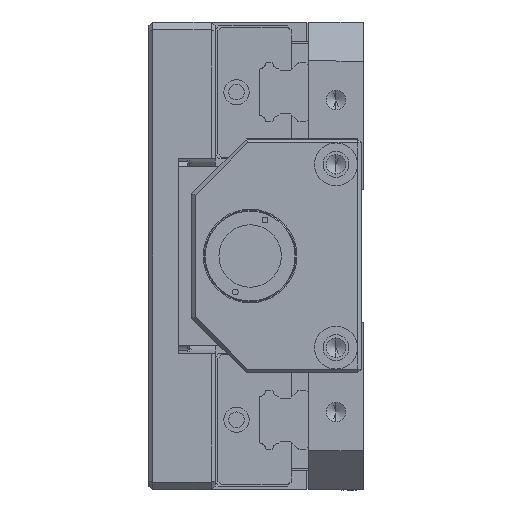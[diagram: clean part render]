
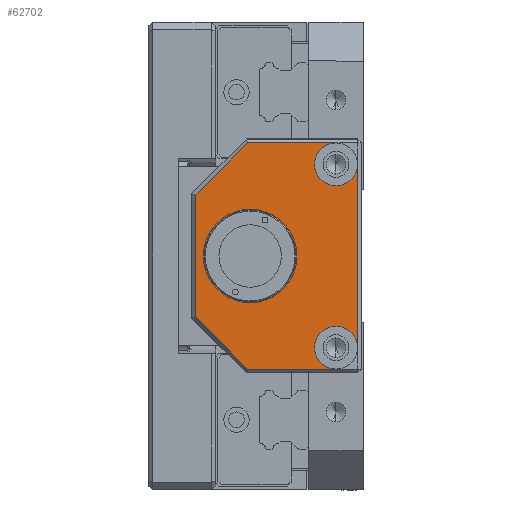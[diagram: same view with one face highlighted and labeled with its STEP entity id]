
A CAD part, left-side view. The second image highlights one B-rep face of the part: STEP entity #62702.
In plain terms, the highlighted planar face has unit normal (-1, 0, 0).
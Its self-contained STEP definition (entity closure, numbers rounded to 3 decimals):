
#1490 = EDGE_CURVE ( 'NONE', #87506, #97980, #65967, .T. ) ;
#1583 = CIRCLE ( 'NONE', #34682, 5.5 ) ;
#2907 = DIRECTION ( 'NONE',  ( 0., 0., 1. ) ) ;
#3717 = DIRECTION ( 'NONE',  ( -1., 0., 0. ) ) ;
#3780 = ORIENTED_EDGE ( 'NONE', *, *, #22506, .F. ) ;
#4013 = PLANE ( 'NONE',  #46763 ) ;
#4129 = CARTESIAN_POINT ( 'NONE',  ( -132.871, 231.651, 321.966 ) ) ;
#4383 = CARTESIAN_POINT ( 'NONE',  ( -132.871, 210.901, 350.966 ) ) ;
#5818 = CIRCLE ( 'NONE', #113718, 5.5 ) ;
#6619 = AXIS2_PLACEMENT_3D ( 'NONE', #56343, #35864, #74333 ) ;
#8052 = ORIENTED_EDGE ( 'NONE', *, *, #54332, .F. ) ;
#8355 = DIRECTION ( 'NONE',  ( -1., 0., 0. ) ) ;
#10295 = CARTESIAN_POINT ( 'NONE',  ( -132.871, 195.651, 345.466 ) ) ;
#11167 = CARTESIAN_POINT ( 'NONE',  ( -132.871, 232.028, 306.757 ) ) ;
#12035 = CIRCLE ( 'NONE', #87799, 5.5 ) ;
#12872 = VERTEX_POINT ( 'NONE', #109379 ) ;
#13408 = VERTEX_POINT ( 'NONE', #92859 ) ;
#13596 = DIRECTION ( 'NONE',  ( 1., 0., 0. ) ) ;
#15686 = VERTEX_POINT ( 'NONE', #119764 ) ;
#19221 = EDGE_CURVE ( 'NONE', #64312, #94208, #35649, .T. ) ;
#20809 = EDGE_CURVE ( 'NONE', #57362, #12872, #57364, .T. ) ;
#21421 = VECTOR ( 'NONE', #94429, 1000. ) ;
#21461 = VERTEX_POINT ( 'NONE', #34317 ) ;
#22506 = EDGE_CURVE ( 'NONE', #12872, #57362, #58812, .T. ) ;
#23671 = CARTESIAN_POINT ( 'NONE',  ( -132.871, 231.651, 306.38 ) ) ;
#29789 = ORIENTED_EDGE ( 'NONE', *, *, #85415, .F. ) ;
#33250 = CARTESIAN_POINT ( 'NONE',  ( -132.871, 229.401, 321.966 ) ) ;
#34317 = CARTESIAN_POINT ( 'NONE',  ( -132.871, 195.651, 339.966 ) ) ;
#34682 = AXIS2_PLACEMENT_3D ( 'NONE', #10295, #87519, #57468 ) ;
#35508 = VERTEX_POINT ( 'NONE', #23671 ) ;
#35649 = LINE ( 'NONE', #4383, #98551 ) ;
#35864 = DIRECTION ( 'NONE',  ( -1., 0., 0. ) ) ;
#42008 = DIRECTION ( 'NONE',  ( 0., 0., -1. ) ) ;
#46636 = CARTESIAN_POINT ( 'NONE',  ( -132.871, 210.901, 292.966 ) ) ;
#46763 = AXIS2_PLACEMENT_3D ( 'NONE', #108097, #13596, #42008 ) ;
#46768 = FACE_BOUND ( 'NONE', #81249, .T. ) ;
#46825 = LINE ( 'NONE', #55516, #21421 ) ;
#47767 = VECTOR ( 'NONE', #65077, 1000. ) ;
#50059 = ORIENTED_EDGE ( 'NONE', *, *, #19221, .F. ) ;
#51563 = DIRECTION ( 'NONE',  ( 0., -1., 0. ) ) ;
#52718 = VECTOR ( 'NONE', #60930, 1000. ) ;
#54332 = EDGE_CURVE ( 'NONE', #109929, #13408, #79175, .T. ) ;
#55516 = CARTESIAN_POINT ( 'NONE',  ( -132.871, 190.151, 321.966 ) ) ;
#56217 = VERTEX_POINT ( 'NONE', #105144 ) ;
#56343 = CARTESIAN_POINT ( 'NONE',  ( -132.871, 217.651, 321.966 ) ) ;
#56418 = CARTESIAN_POINT ( 'NONE',  ( -132.871, 195.651, 298.466 ) ) ;
#57362 = VERTEX_POINT ( 'NONE', #33250 ) ;
#57364 = CIRCLE ( 'NONE', #78244, 11.75 ) ;
#57468 = DIRECTION ( 'NONE',  ( 0., 0., 1. ) ) ;
#58742 = EDGE_CURVE ( 'NONE', #94208, #21461, #5818, .T. ) ;
#58812 = CIRCLE ( 'NONE', #6619, 11.75 ) ;
#60930 = DIRECTION ( 'NONE',  ( 0., 0., 1. ) ) ;
#61310 = AXIS2_PLACEMENT_3D ( 'NONE', #56418, #123358, #94064 ) ;
#61751 = CARTESIAN_POINT ( 'NONE',  ( -132.871, 218.236, 350.966 ) ) ;
#62702 = ADVANCED_FACE ( 'NONE', ( #46768, #87182 ), #4013, .F. ) ;
#64312 = VERTEX_POINT ( 'NONE', #61751 ) ;
#65077 = DIRECTION ( 'NONE',  ( 0., 1., 0. ) ) ;
#65967 = CIRCLE ( 'NONE', #61310, 5.5 ) ;
#66355 = DIRECTION ( 'NONE',  ( 0., 1., 0. ) ) ;
#66923 = ORIENTED_EDGE ( 'NONE', *, *, #58742, .F. ) ;
#71169 = EDGE_CURVE ( 'NONE', #97980, #109929, #12035, .T. ) ;
#71230 = ORIENTED_EDGE ( 'NONE', *, *, #71169, .F. ) ;
#72749 = CARTESIAN_POINT ( 'NONE',  ( -132.871, 190.151, 298.466 ) ) ;
#72942 = DIRECTION ( 'NONE',  ( 0., -0.707, 0.707 ) ) ;
#73184 = EDGE_CURVE ( 'NONE', #15686, #64312, #110516, .T. ) ;
#74333 = DIRECTION ( 'NONE',  ( 0., 1., 0. ) ) ;
#74722 = CARTESIAN_POINT ( 'NONE',  ( -132.871, 217.651, 321.966 ) ) ;
#75285 = ORIENTED_EDGE ( 'NONE', *, *, #1490, .F. ) ;
#75774 = EDGE_CURVE ( 'NONE', #21461, #56217, #1583, .T. ) ;
#76655 = CARTESIAN_POINT ( 'NONE',  ( -132.871, 195.651, 298.466 ) ) ;
#78244 = AXIS2_PLACEMENT_3D ( 'NONE', #74722, #8355, #66355 ) ;
#79175 = LINE ( 'NONE', #46636, #47767 ) ;
#81249 = EDGE_LOOP ( 'NONE', ( #84987, #3780 ) ) ;
#84987 = ORIENTED_EDGE ( 'NONE', *, *, #20809, .F. ) ;
#85415 = EDGE_CURVE ( 'NONE', #35508, #15686, #108104, .T. ) ;
#87182 = FACE_OUTER_BOUND ( 'NONE', #104201, .T. ) ;
#87506 = VERTEX_POINT ( 'NONE', #72749 ) ;
#87519 = DIRECTION ( 'NONE',  ( -1., 0., 0. ) ) ;
#87799 = AXIS2_PLACEMENT_3D ( 'NONE', #76655, #105562, #113990 ) ;
#89792 = CARTESIAN_POINT ( 'NONE',  ( -132.871, 195.651, 292.966 ) ) ;
#90544 = VECTOR ( 'NONE', #106481, 1000. ) ;
#92859 = CARTESIAN_POINT ( 'NONE',  ( -132.871, 218.236, 292.966 ) ) ;
#94042 = EDGE_CURVE ( 'NONE', #56217, #87506, #46825, .T. ) ;
#94064 = DIRECTION ( 'NONE',  ( 0., 0., 1. ) ) ;
#94208 = VERTEX_POINT ( 'NONE', #115317 ) ;
#94429 = DIRECTION ( 'NONE',  ( 0., 0., -1. ) ) ;
#95474 = VECTOR ( 'NONE', #72942, 1000. ) ;
#96336 = ORIENTED_EDGE ( 'NONE', *, *, #94042, .F. ) ;
#97980 = VERTEX_POINT ( 'NONE', #106651 ) ;
#98551 = VECTOR ( 'NONE', #51563, 1000. ) ;
#104201 = EDGE_LOOP ( 'NONE', ( #96336, #114389, #66923, #50059, #110559, #29789, #113421, #8052, #71230, #75285 ) ) ;
#105144 = CARTESIAN_POINT ( 'NONE',  ( -132.871, 190.151, 345.466 ) ) ;
#105562 = DIRECTION ( 'NONE',  ( -1., 0., 0. ) ) ;
#106481 = DIRECTION ( 'NONE',  ( 0., 0.707, 0.707 ) ) ;
#106651 = CARTESIAN_POINT ( 'NONE',  ( -132.871, 195.651, 303.966 ) ) ;
#107873 = EDGE_CURVE ( 'NONE', #13408, #35508, #113040, .T. ) ;
#108097 = CARTESIAN_POINT ( 'NONE',  ( -132.871, 190.151, 350.966 ) ) ;
#108104 = LINE ( 'NONE', #4129, #52718 ) ;
#109379 = CARTESIAN_POINT ( 'NONE',  ( -132.871, 205.901, 321.966 ) ) ;
#109394 = CARTESIAN_POINT ( 'NONE',  ( -132.871, 217.86, 351.343 ) ) ;
#109929 = VERTEX_POINT ( 'NONE', #89792 ) ;
#110516 = LINE ( 'NONE', #109394, #95474 ) ;
#110559 = ORIENTED_EDGE ( 'NONE', *, *, #73184, .F. ) ;
#113040 = LINE ( 'NONE', #11167, #90544 ) ;
#113421 = ORIENTED_EDGE ( 'NONE', *, *, #107873, .F. ) ;
#113718 = AXIS2_PLACEMENT_3D ( 'NONE', #118649, #3717, #2907 ) ;
#113990 = DIRECTION ( 'NONE',  ( 0., 0., 1. ) ) ;
#114389 = ORIENTED_EDGE ( 'NONE', *, *, #75774, .F. ) ;
#115317 = CARTESIAN_POINT ( 'NONE',  ( -132.871, 195.651, 350.966 ) ) ;
#118649 = CARTESIAN_POINT ( 'NONE',  ( -132.871, 195.651, 345.466 ) ) ;
#119764 = CARTESIAN_POINT ( 'NONE',  ( -132.871, 231.651, 337.551 ) ) ;
#123358 = DIRECTION ( 'NONE',  ( -1., 0., 0. ) ) ;
